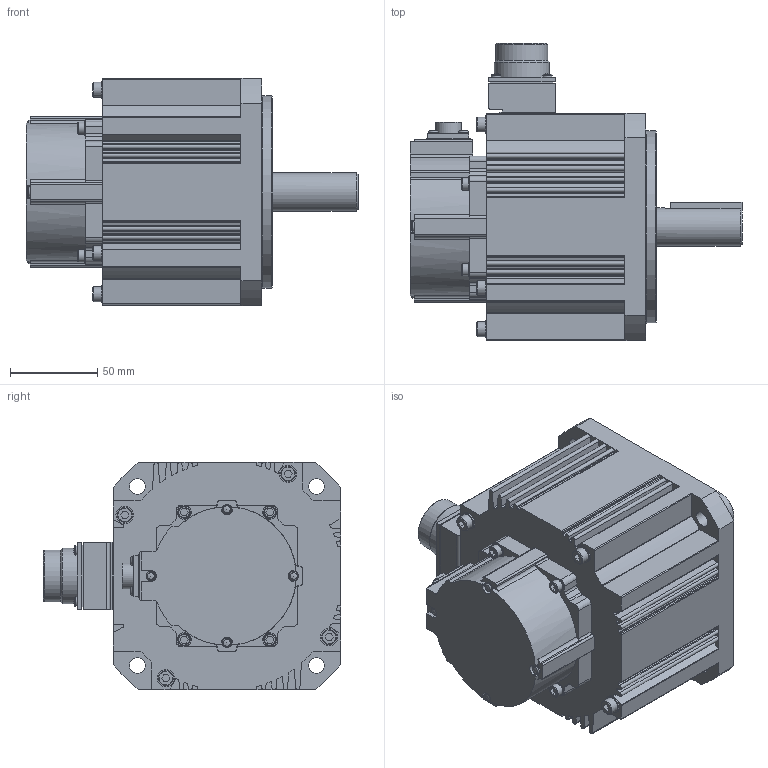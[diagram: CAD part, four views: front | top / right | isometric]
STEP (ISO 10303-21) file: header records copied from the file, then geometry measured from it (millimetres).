
FILE_DESCRIPTION( ( 'STEP AP214' ), ' ' );
FILE_NAME( 'p:/temp/worker_253/3140_2788/app_56_12016081613301553244818260eae72_000000_00_00_000000/format_0/MDMF152L1G5.stp', '2016-08-16T11:30:16', ( '' ), ( '' ), ' ', 'PARTsolutions', ' ' );
FILE_SCHEMA( ( 'AUTOMOTIVE_DESIGN { 1 0 10303 214 1 1 1 1 }' ) );
Length unit declared in the file: millimetre
Products named in the file (1): _MDMF152L1G5
Bounding box: 190 x 170 x 130 mm (x, y, z)
Volume: 1688459.5 mm3; surface area: 123565.4 mm2
Topology: 1 solids, 1 shells, 549 faces, 1474 edges, 961 vertices
Faces by surface type: plane 267, cylinder 227, cone 26, torus 17, sphere 12
Full cylindrical faces by diameter (mm): 2.459 x1, 7 x4, 8 x4, 8.5 x4, 9 x4, 10 x4, 14.8 x1, 22 x1, 29.75 x1, 31.75 x1, 34 x1, 38 x1, 45 x1, 102 x1, 110 x1
Entity records: 21267 total; most frequent: CARTESIAN_POINT 3150, DIRECTION 2945, ORIENTED_EDGE 2734, EDGE_CURVE 1367, AXIS2_PLACEMENT_3D 1063, VERTEX_POINT 946, LINE 819, VECTOR 819
